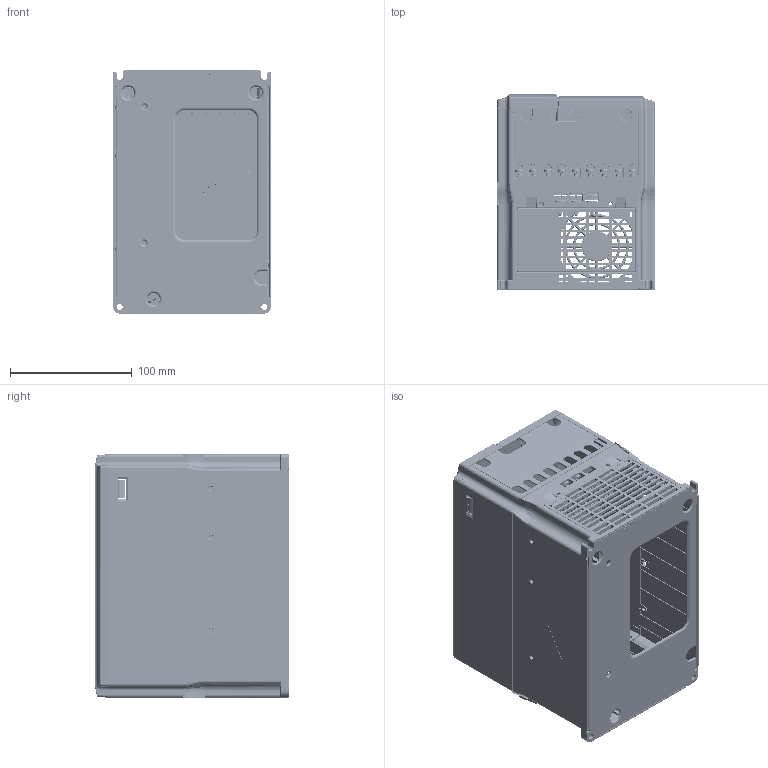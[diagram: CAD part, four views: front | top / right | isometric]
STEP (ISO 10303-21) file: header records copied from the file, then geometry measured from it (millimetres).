
FILE_DESCRIPTION((''),'2;1');
FILE_NAME('000-MVT222ZGB_ASM','2021-12-10T',('h2718'),(''),'CREO PARAMETRIC BY PTC INC, 2015290','CREO PARAMETRIC BY PTC INC, 2015290','');
FILE_SCHEMA(('AP203_CONFIGURATION_CONTROLLED_3D_DESIGN_OF_MECHANICAL_PARTS_AND_ASSEMBLIES_MIM_LF { 1 0 10303 403 2 1 2 }'));
Products named in the file (23): 20210451-LJ_2_6_1; 20210445-LJ_4_7; 20210450-LJ_3_4; 20210446-LJ_25_3; 20210449-LJ_10_4; 20210438-LJ_6_2; MVT552ZGB-SUJIAO_ASM_7_ASM_5_ASM; MD500-T2-DZ__V1_3_5_7_1; MD500-T2-DZ__V1_3_2_1_1; MD500-T2-DZ__V1_3_3_1_1; MD500-T2-DZ__V1_3_1_1_1; MD500-T2-DZ__V1_3_6_1_1; LUODING_ASM_1_ASM_1_ASM; MD500-T2-DZ__V1_3_ASM_18_ASM_2_ASM; MVT552ZGB-PCB_ASM_19_ASM_2_ASM; 20130670-LJ_14_6; MVT552ZGB-BANJIN_ASM_3_ASM_1_ASM; 520-KZB-20211209; 520-AJZJ-01-20211209; 20212496; 20441162; 001-520-ZUJIAN_ASM; 000-MVT222ZGB_ASM
Assembly tree (46 placements, depth 5):
  000-MVT222ZGB_ASM
    MVT552ZGB-SUJIAO_ASM_7_ASM_5_ASM
      20210451-LJ_2_6_1
      20210445-LJ_4_7
      20210450-LJ_3_4
      20210446-LJ_25_3
      20210449-LJ_10_4
      20210438-LJ_6_2
    MVT552ZGB-PCB_ASM_19_ASM_2_ASM
      MD500-T2-DZ__V1_3_ASM_18_ASM_2_ASM
        MD500-T2-DZ__V1_3_5_7_1
        MD500-T2-DZ__V1_3_2_1_1  x9
        MD500-T2-DZ__V1_3_3_1_1  x9
        LUODING_ASM_1_ASM_1_ASM  x9
          MD500-T2-DZ__V1_3_1_1_1
          MD500-T2-DZ__V1_3_6_1_1
    MVT552ZGB-BANJIN_ASM_3_ASM_1_ASM
      20130670-LJ_14_6
    001-520-ZUJIAN_ASM
      520-KZB-20211209
      520-AJZJ-01-20211209
      20212496
      20441162
Bounding box: 130 x 160 x 200 mm (x, y, z)
Volume: 362380.3 mm3; surface area: 461063.3 mm2
Topology: 78 solids, 102 shells, 13997 faces, 39176 edges, 25348 vertices
Faces by surface type: plane 8118, cylinder 3659, bspline 1018, cone 593, torus 434, extrusion 99, sphere 66, revolution 10
Entity records: 657074 total; most frequent: CARTESIAN_POINT 204135, ORIENTED_EDGE 69177, DIRECTION 62259, PRESENTATION_STYLE_ASSIGNMENT 37905, STYLED_ITEM 35137, CURVE_STYLE 35092, EDGE_CURVE 34651, VECTOR 23960
